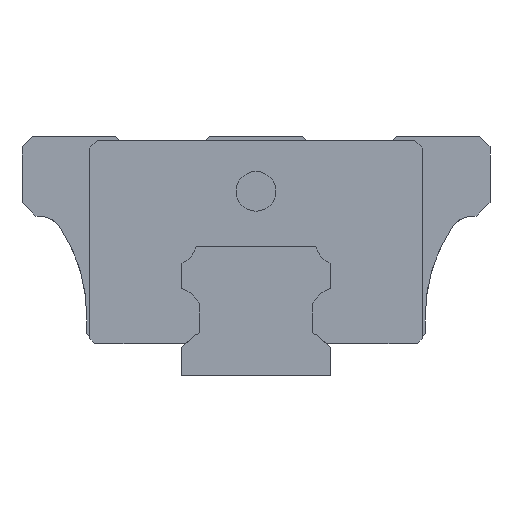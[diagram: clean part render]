
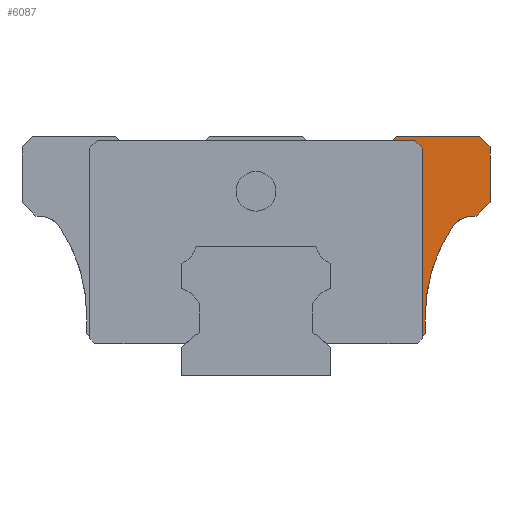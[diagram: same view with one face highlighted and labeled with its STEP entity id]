
A CAD part, left-side view. The second image highlights one B-rep face of the part: STEP entity #6087.
In plain terms, the highlighted planar face has unit normal (-1, 0, 0).
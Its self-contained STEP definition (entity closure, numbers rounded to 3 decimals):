
#6 = DIRECTION ( 'NONE',  ( -1., 0., 0. ) ) ;
#135 = ORIENTED_EDGE ( 'NONE', *, *, #6555, .T. ) ;
#198 = LINE ( 'NONE', #2632, #7965 ) ;
#345 = CARTESIAN_POINT ( 'NONE',  ( -24., -15.942, 23.583 ) ) ;
#420 = DIRECTION ( 'NONE',  ( 0., -1., 0. ) ) ;
#440 = DIRECTION ( 'NONE',  ( 0., 0., 1. ) ) ;
#523 = CARTESIAN_POINT ( 'NONE',  ( -24., -33., 6. ) ) ;
#950 = VERTEX_POINT ( 'NONE', #6538 ) ;
#984 = EDGE_CURVE ( 'NONE', #6740, #6056, #3419, .T. ) ;
#1083 = CARTESIAN_POINT ( 'NONE',  ( -24., -23.5, 16. ) ) ;
#1279 = VERTEX_POINT ( 'NONE', #2322 ) ;
#1281 = DIRECTION ( 'NONE',  ( 0., 0., 1. ) ) ;
#1635 = VECTOR ( 'NONE', #7228, 1000. ) ;
#1639 = CARTESIAN_POINT ( 'NONE',  ( -24., -23.5, 22.95 ) ) ;
#1673 = VECTOR ( 'NONE', #4834, 1000. ) ;
#1679 = ORIENTED_EDGE ( 'NONE', *, *, #3999, .T. ) ;
#1794 = VERTEX_POINT ( 'NONE', #5535 ) ;
#1806 = VECTOR ( 'NONE', #3281, 1000. ) ;
#1838 = DIRECTION ( 'NONE',  ( 0., -0.707, 0.707 ) ) ;
#1840 = VERTEX_POINT ( 'NONE', #3599 ) ;
#2011 = CARTESIAN_POINT ( 'NONE',  ( -24., -22.45, 24. ) ) ;
#2186 = DIRECTION ( 'NONE',  ( 1., 0., 0. ) ) ;
#2228 = VECTOR ( 'NONE', #3338, 1000. ) ;
#2322 = CARTESIAN_POINT ( 'NONE',  ( -24., -16.7, 22.841 ) ) ;
#2338 = VERTEX_POINT ( 'NONE', #6651 ) ;
#2367 = EDGE_CURVE ( 'NONE', #1794, #6740, #6001, .T. ) ;
#2477 = AXIS2_PLACEMENT_3D ( 'NONE', #6259, #6, #1281 ) ;
#2491 = EDGE_CURVE ( 'NONE', #5079, #2338, #198, .T. ) ;
#2632 = CARTESIAN_POINT ( 'NONE',  ( -24., -23.5, 24. ) ) ;
#2764 = LINE ( 'NONE', #345, #2228 ) ;
#2805 = EDGE_CURVE ( 'NONE', #1840, #5102, #7373, .T. ) ;
#2807 = EDGE_CURVE ( 'NONE', #6196, #5615, #7901, .T. ) ;
#2820 = VERTEX_POINT ( 'NONE', #3485 ) ;
#2842 = VECTOR ( 'NONE', #3293, 1000. ) ;
#2851 = ORIENTED_EDGE ( 'NONE', *, *, #4437, .T. ) ;
#2880 = DIRECTION ( 'NONE',  ( 0., 0., 1. ) ) ;
#2902 = VECTOR ( 'NONE', #1838, 1000. ) ;
#2987 = ORIENTED_EDGE ( 'NONE', *, *, #6553, .T. ) ;
#3081 = ORIENTED_EDGE ( 'NONE', *, *, #7674, .T. ) ;
#3281 = DIRECTION ( 'NONE',  ( 0., 0.643, -0.766 ) ) ;
#3293 = DIRECTION ( 'NONE',  ( 0., 0., -1. ) ) ;
#3333 = ORIENTED_EDGE ( 'NONE', *, *, #3906, .T. ) ;
#3338 = DIRECTION ( 'NONE',  ( 0., -0.715, -0.699 ) ) ;
#3419 = LINE ( 'NONE', #1083, #1635 ) ;
#3445 = DIRECTION ( 'NONE',  ( 1., 0., 0. ) ) ;
#3485 = CARTESIAN_POINT ( 'NONE',  ( -24., -21.775, 16. ) ) ;
#3555 = CARTESIAN_POINT ( 'NONE',  ( -24., -17., 4.2 ) ) ;
#3599 = CARTESIAN_POINT ( 'NONE',  ( -24., -13.75, 23.583 ) ) ;
#3644 = ORIENTED_EDGE ( 'NONE', *, *, #2807, .T. ) ;
#3906 = EDGE_CURVE ( 'NONE', #5356, #2820, #4012, .T. ) ;
#3908 = LINE ( 'NONE', #5119, #2842 ) ;
#3924 = CARTESIAN_POINT ( 'NONE',  ( -24., -16.7, 3.9 ) ) ;
#3999 = EDGE_CURVE ( 'NONE', #5615, #950, #7375, .T. ) ;
#4006 = ORIENTED_EDGE ( 'NONE', *, *, #5215, .T. ) ;
#4012 = CIRCLE ( 'NONE', #6588, 2.5 ) ;
#4175 = DIRECTION ( 'NONE',  ( 0., -1., 0. ) ) ;
#4225 = EDGE_CURVE ( 'NONE', #2338, #1840, #6956, .T. ) ;
#4262 = CARTESIAN_POINT ( 'NONE',  ( -24., -17., 4.2 ) ) ;
#4339 = ORIENTED_EDGE ( 'NONE', *, *, #2805, .T. ) ;
#4405 = VECTOR ( 'NONE', #6336, 1000. ) ;
#4437 = EDGE_CURVE ( 'NONE', #2820, #1794, #7931, .T. ) ;
#4528 = ORIENTED_EDGE ( 'NONE', *, *, #2367, .T. ) ;
#4834 = DIRECTION ( 'NONE',  ( 0., 0., 1. ) ) ;
#4926 = CARTESIAN_POINT ( 'NONE',  ( -24., -22.45, 24. ) ) ;
#5059 = VECTOR ( 'NONE', #4175, 1000. ) ;
#5079 = VERTEX_POINT ( 'NONE', #4926 ) ;
#5102 = VERTEX_POINT ( 'NONE', #6180 ) ;
#5119 = CARTESIAN_POINT ( 'NONE',  ( -24., -16.7, 22.701 ) ) ;
#5215 = EDGE_CURVE ( 'NONE', #6056, #5079, #7552, .T. ) ;
#5356 = VERTEX_POINT ( 'NONE', #7535 ) ;
#5424 = CARTESIAN_POINT ( 'NONE',  ( -24., 15.942, 23.583 ) ) ;
#5535 = CARTESIAN_POINT ( 'NONE',  ( -24., -22.1, 16. ) ) ;
#5547 = DIRECTION ( 'NONE',  ( 0., 1., 0. ) ) ;
#5615 = VERTEX_POINT ( 'NONE', #3555 ) ;
#5837 = EDGE_LOOP ( 'NONE', ( #4006, #7757, #6238, #4339, #2987, #135, #3644, #1679, #3081, #3333, #2851, #4528, #6591 ) ) ;
#6001 = LINE ( 'NONE', #6731, #2902 ) ;
#6030 = VECTOR ( 'NONE', #7976, 1000. ) ;
#6056 = VERTEX_POINT ( 'NONE', #1639 ) ;
#6087 = ADVANCED_FACE ( 'NONE', ( #6861 ), #6822, .T. ) ;
#6180 = CARTESIAN_POINT ( 'NONE',  ( -24., -15.942, 23.583 ) ) ;
#6196 = VERTEX_POINT ( 'NONE', #3924 ) ;
#6238 = ORIENTED_EDGE ( 'NONE', *, *, #4225, .T. ) ;
#6259 = CARTESIAN_POINT ( 'NONE',  ( -24., 0., 14.59 ) ) ;
#6336 = DIRECTION ( 'NONE',  ( 0., 0.707, 0.707 ) ) ;
#6360 = CARTESIAN_POINT ( 'NONE',  ( -24., -14.1, 24. ) ) ;
#6493 = AXIS2_PLACEMENT_3D ( 'NONE', #523, #2186, #440 ) ;
#6529 = CARTESIAN_POINT ( 'NONE',  ( -24., -21.775, 13.5 ) ) ;
#6538 = CARTESIAN_POINT ( 'NONE',  ( -24., -17., 6. ) ) ;
#6553 = EDGE_CURVE ( 'NONE', #5102, #1279, #2764, .T. ) ;
#6555 = EDGE_CURVE ( 'NONE', #1279, #6196, #3908, .T. ) ;
#6588 = AXIS2_PLACEMENT_3D ( 'NONE', #6529, #3445, #2880 ) ;
#6591 = ORIENTED_EDGE ( 'NONE', *, *, #984, .T. ) ;
#6651 = CARTESIAN_POINT ( 'NONE',  ( -24., -14.1, 24. ) ) ;
#6731 = CARTESIAN_POINT ( 'NONE',  ( -24., -23.5, 17.4 ) ) ;
#6740 = VERTEX_POINT ( 'NONE', #7177 ) ;
#6745 = CIRCLE ( 'NONE', #6493, 16. ) ;
#6754 = CARTESIAN_POINT ( 'NONE',  ( -24., -22.1, 16. ) ) ;
#6822 = PLANE ( 'NONE',  #2477 ) ;
#6861 = FACE_OUTER_BOUND ( 'NONE', #5837, .T. ) ;
#6929 = VECTOR ( 'NONE', #420, 1000. ) ;
#6956 = LINE ( 'NONE', #6360, #1806 ) ;
#7177 = CARTESIAN_POINT ( 'NONE',  ( -24., -23.5, 17.4 ) ) ;
#7228 = DIRECTION ( 'NONE',  ( 0., 0., 1. ) ) ;
#7373 = LINE ( 'NONE', #5424, #6929 ) ;
#7375 = LINE ( 'NONE', #7902, #1673 ) ;
#7535 = CARTESIAN_POINT ( 'NONE',  ( -24., -19.696, 14.889 ) ) ;
#7552 = LINE ( 'NONE', #2011, #4405 ) ;
#7674 = EDGE_CURVE ( 'NONE', #950, #5356, #6745, .T. ) ;
#7757 = ORIENTED_EDGE ( 'NONE', *, *, #2491, .T. ) ;
#7901 = LINE ( 'NONE', #4262, #6030 ) ;
#7902 = CARTESIAN_POINT ( 'NONE',  ( -24., -17., 6. ) ) ;
#7931 = LINE ( 'NONE', #6754, #5059 ) ;
#7965 = VECTOR ( 'NONE', #5547, 1000. ) ;
#7976 = DIRECTION ( 'NONE',  ( 0., -0.707, 0.707 ) ) ;
